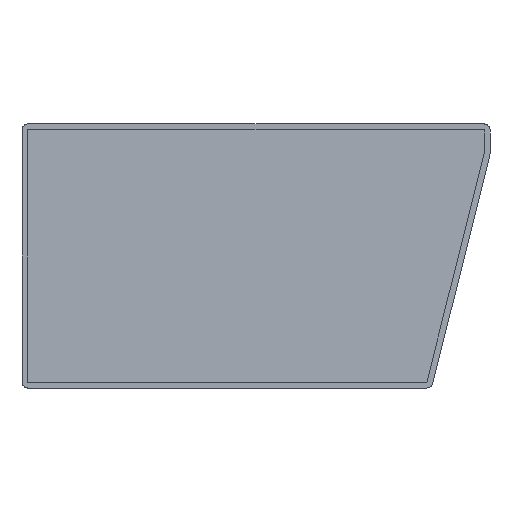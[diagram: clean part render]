
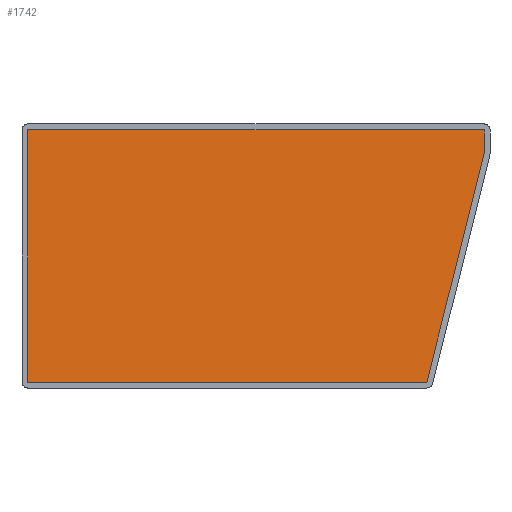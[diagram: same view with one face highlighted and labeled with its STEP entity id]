
A CAD part, front view. The second image highlights one B-rep face of the part: STEP entity #1742.
In plain terms, the highlighted planar face has unit normal (0, -0.998, 0.057).
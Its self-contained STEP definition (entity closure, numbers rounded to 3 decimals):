
#210=LINE('',#5038,#326);
#212=LINE('',#5042,#328);
#213=LINE('',#5044,#329);
#214=LINE('',#5046,#330);
#215=LINE('',#5047,#331);
#326=VECTOR('',#2415,10.);
#328=VECTOR('',#2419,10.);
#329=VECTOR('',#2420,10.);
#330=VECTOR('',#2421,10.);
#331=VECTOR('',#2422,10.);
#381=PLANE('',#1943);
#479=FACE_OUTER_BOUND('',#594,.T.);
#594=EDGE_LOOP('',(#1573,#1574,#1575,#1576,#1577));
#861=VERTEX_POINT('',#4544);
#868=VERTEX_POINT('',#5037);
#869=VERTEX_POINT('',#5041);
#870=VERTEX_POINT('',#5043);
#871=VERTEX_POINT('',#5045);
#1113=EDGE_CURVE('',#861,#868,#210,.T.);
#1115=EDGE_CURVE('',#869,#861,#212,.T.);
#1116=EDGE_CURVE('',#870,#869,#213,.T.);
#1117=EDGE_CURVE('',#871,#870,#214,.T.);
#1118=EDGE_CURVE('',#868,#871,#215,.T.);
#1573=ORIENTED_EDGE('',*,*,#1115,.F.);
#1574=ORIENTED_EDGE('',*,*,#1116,.F.);
#1575=ORIENTED_EDGE('',*,*,#1117,.F.);
#1576=ORIENTED_EDGE('',*,*,#1118,.F.);
#1577=ORIENTED_EDGE('',*,*,#1113,.F.);
#1742=ADVANCED_FACE('',(#479),#381,.T.);
#1943=AXIS2_PLACEMENT_3D('',#5040,#2417,#2418);
#2415=DIRECTION('',(1.,0.,0.));
#2417=DIRECTION('center_axis',(0.,-0.998,
0.057));
#2418=DIRECTION('ref_axis',(1.,0.,0.));
#2419=DIRECTION('',(0.,0.057,0.998));
#2420=DIRECTION('',(-1.,0.,0.));
#2421=DIRECTION('',(-0.242,-0.056,-0.969));
#2422=DIRECTION('',(0.,-0.057,-0.998));
#4544=CARTESIAN_POINT('',(0.,-10.,0.));
#5037=CARTESIAN_POINT('',(153.75,-10.,0.));
#5038=CARTESIAN_POINT('',(0.,-10.,0.));
#5040=CARTESIAN_POINT('Origin',(76.875,-12.443,-42.5));
#5041=CARTESIAN_POINT('',(0.,-14.885,-85.));
#5042=CARTESIAN_POINT('',(0.,-13.631,-63.182));
#5043=CARTESIAN_POINT('',(134.5,-14.885,-85.));
#5044=CARTESIAN_POINT('',(105.688,-14.885,-85.));
#5045=CARTESIAN_POINT('',(153.75,-10.46,-8.));
#5046=CARTESIAN_POINT('',(147.54,-11.887,-32.839));
#5047=CARTESIAN_POINT('',(153.75,-11.197,-20.822));
